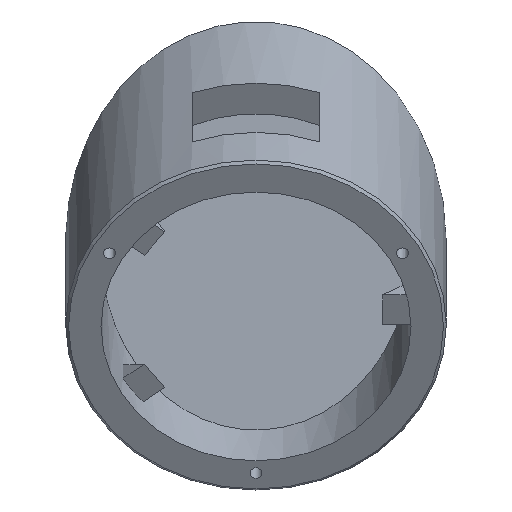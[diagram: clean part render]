
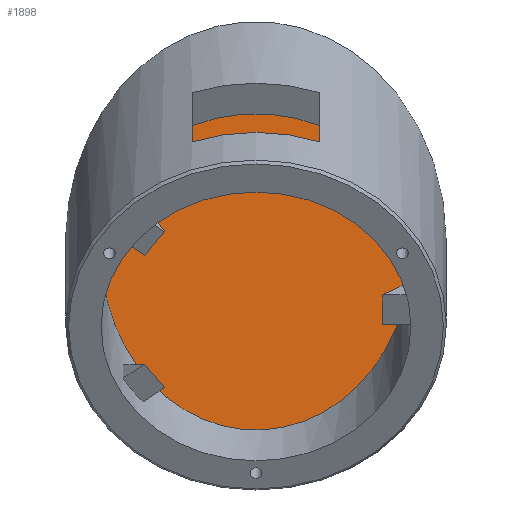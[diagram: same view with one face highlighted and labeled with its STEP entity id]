
A CAD part, top view. The second image highlights one B-rep face of the part: STEP entity #1898.
In plain terms, the highlighted planar face has unit normal (0, 0, 1).
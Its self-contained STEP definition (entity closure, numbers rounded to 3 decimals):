
#412 = CYLINDRICAL_SURFACE('',#413,22.);
#413 = AXIS2_PLACEMENT_3D('',#414,#415,#416);
#414 = CARTESIAN_POINT('',(0.,45.,-56.942));
#415 = DIRECTION('',(-0.,0.5,-0.866));
#416 = DIRECTION('',(1.,0.,0.));
#814 = EDGE_CURVE('',#815,#815,#817,.T.);
#815 = VERTEX_POINT('',#816);
#816 = CARTESIAN_POINT('',(22.,10.739,2.4));
#817 = SURFACE_CURVE('',#818,(#823,#864),.PCURVE_S1.);
#818 = ELLIPSE('',#819,25.403,22.);
#819 = AXIS2_PLACEMENT_3D('',#820,#821,#822);
#820 = CARTESIAN_POINT('',(0.,10.739,2.4));
#821 = DIRECTION('',(0.,0.,1.));
#822 = DIRECTION('',(0.,1.,-0.));
#823 = PCURVE('',#412,#824);
#824 = DEFINITIONAL_REPRESENTATION('',(#825),#863);
#825 = B_SPLINE_CURVE_WITH_KNOTS('',8,(#826,#827,#828,#829,#830,#831,
    #832,#833,#834,#835,#836,#837,#838,#839,#840,#841,#842,#843,#844,
    #845,#846,#847,#848,#849,#850,#851,#852,#853,#854,#855,#856,#857,
    #858,#859,#860,#861,#862),.UNSPECIFIED.,.F.,.F.,(9,7,7,7,7,9),(
    4.712,6.283,7.461,8.345,
    9.67,10.996),.UNSPECIFIED.);
#826 = CARTESIAN_POINT('',(0.,-68.523));
#827 = CARTESIAN_POINT('',(-0.196,-66.029));
#828 = CARTESIAN_POINT('',(-0.393,-63.535));
#829 = CARTESIAN_POINT('',(-0.589,-61.187));
#830 = CARTESIAN_POINT('',(-0.785,-59.133));
#831 = CARTESIAN_POINT('',(-0.982,-57.5));
#832 = CARTESIAN_POINT('',(-1.178,-56.381));
#833 = CARTESIAN_POINT('',(-1.374,-55.821));
#834 = CARTESIAN_POINT('',(-1.718,-55.821));
#835 = CARTESIAN_POINT('',(-1.865,-56.136));
#836 = CARTESIAN_POINT('',(-2.013,-56.765));
#837 = CARTESIAN_POINT('',(-2.16,-57.695));
#838 = CARTESIAN_POINT('',(-2.307,-58.896));
#839 = CARTESIAN_POINT('',(-2.454,-60.326));
#840 = CARTESIAN_POINT('',(-2.602,-61.934));
#841 = CARTESIAN_POINT('',(-2.859,-64.958));
#842 = CARTESIAN_POINT('',(-2.97,-66.322));
#843 = CARTESIAN_POINT('',(-3.08,-67.729));
#844 = CARTESIAN_POINT('',(-3.191,-69.155));
#845 = CARTESIAN_POINT('',(-3.301,-70.571));
#846 = CARTESIAN_POINT('',(-3.412,-71.952));
#847 = CARTESIAN_POINT('',(-3.522,-73.273));
#848 = CARTESIAN_POINT('',(-3.798,-76.366));
#849 = CARTESIAN_POINT('',(-3.964,-78.034));
#850 = CARTESIAN_POINT('',(-4.129,-79.437));
#851 = CARTESIAN_POINT('',(-4.295,-80.507));
#852 = CARTESIAN_POINT('',(-4.461,-81.197));
#853 = CARTESIAN_POINT('',(-4.626,-81.48));
#854 = CARTESIAN_POINT('',(-4.792,-81.355));
#855 = CARTESIAN_POINT('',(-5.123,-80.332));
#856 = CARTESIAN_POINT('',(-5.289,-79.435));
#857 = CARTESIAN_POINT('',(-5.455,-78.172));
#858 = CARTESIAN_POINT('',(-5.621,-76.588));
#859 = CARTESIAN_POINT('',(-5.786,-74.747));
#860 = CARTESIAN_POINT('',(-5.952,-72.731));
#861 = CARTESIAN_POINT('',(-6.118,-70.627));
#862 = CARTESIAN_POINT('',(-6.283,-68.523));
#863 = ( GEOMETRIC_REPRESENTATION_CONTEXT(2) 
PARAMETRIC_REPRESENTATION_CONTEXT() REPRESENTATION_CONTEXT('2D SPACE',''
  ) );
#864 = PCURVE('',#865,#870);
#865 = PLANE('',#866);
#866 = AXIS2_PLACEMENT_3D('',#867,#868,#869);
#867 = CARTESIAN_POINT('',(-125.,-125.,2.4));
#868 = DIRECTION('',(0.,0.,1.));
#869 = DIRECTION('',(1.,0.,0.));
#870 = DEFINITIONAL_REPRESENTATION('',(#871),#875);
#871 = ELLIPSE('',#872,25.403,22.);
#872 = AXIS2_PLACEMENT_2D('',#873,#874);
#873 = CARTESIAN_POINT('',(125.,135.739));
#874 = DIRECTION('',(0.,1.));
#875 = ( GEOMETRIC_REPRESENTATION_CONTEXT(2) 
PARAMETRIC_REPRESENTATION_CONTEXT() REPRESENTATION_CONTEXT('2D SPACE',''
  ) );
#1898 = ADVANCED_FACE('',(#1899),#865,.T.);
#1899 = FACE_BOUND('',#1900,.T.);
#1900 = EDGE_LOOP('',(#1901));
#1901 = ORIENTED_EDGE('',*,*,#814,.T.);
